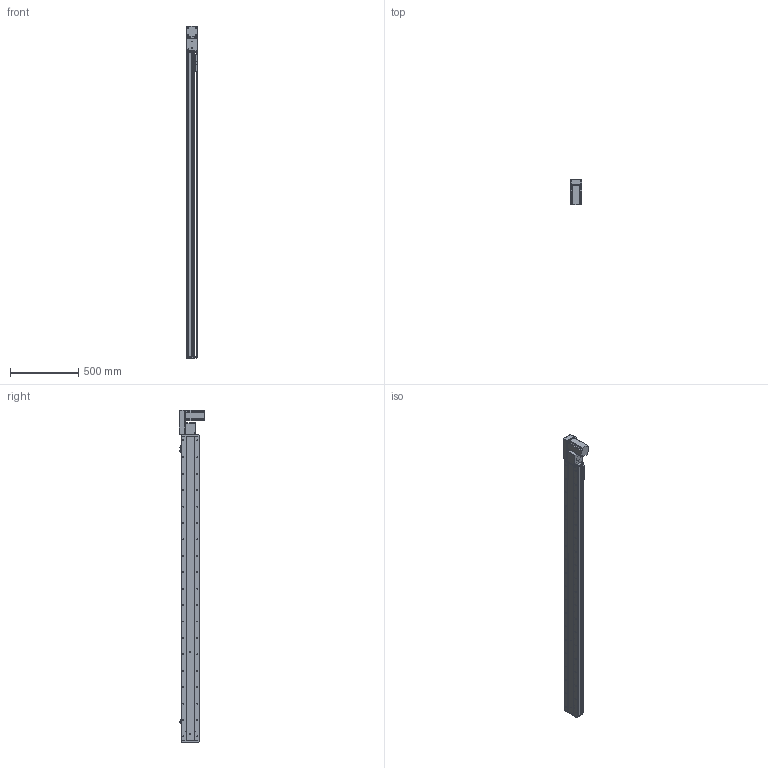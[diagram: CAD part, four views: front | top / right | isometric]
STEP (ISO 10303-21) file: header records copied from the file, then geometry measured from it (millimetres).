
FILE_DESCRIPTION (( 'STEP AP203' ), '1' );
FILE_NAME ('KSD130B-S2000-MRB-CM.STEP', '2019-09-21T07:29:09', ( '微软用户' ), ( '微软中国' ), 'SwSTEP 2.0', 'SolidWorks 2014', '' );
FILE_SCHEMA (( 'CONFIG_CONTROL_DESIGN' ));
Length unit declared in the file: millimetre
Products named in the file (12): U倰嫖萇EEㄜSX672; 覜茼え100遵圉猾敕; 130宽模组马达安装板连板左右折同步带; 130宽底板半封闭同步带-2000行程; 130宽模组保护罩上下左右折-同步带; 130宽端盖同步带半封闭; 台达ECMA－C20807AS伺服电机; 130宽同步带安装座半封闭; KSD130B-S2000-MRB-CM; 130宽马达安装板同步带半封闭; 130宽马达安装板同步带右-改镜向_默认<按加工>; 130宽盖板半封闭同步带-2000行程
Assembly tree (13 placements, depth 2):
  KSD130B-S2000-MRB-CM
    130宽底板半封闭同步带-2000行程
    130宽端盖同步带半封闭
    130宽同步带安装座半封闭
    130宽马达安装板同步带半封闭
    130宽马达安装板同步带右-改镜向_默认<按加工>
    130宽盖板半封闭同步带-2000行程
    U倰嫖萇EEㄜSX672  x3
    覜茼え100遵圉猾敕
    130宽模组马达安装板连板左右折同步带
    130宽模组保护罩上下左右折-同步带
    台达ECMA－C20807AS伺服电机
Bounding box: 81 x 184.8 x 2427 mm (x, y, z)
Volume: 7685981.1 mm3; surface area: 2189694 mm2
Topology: 14 solids, 14 shells, 1787 faces, 5221 edges, 3301 vertices
Faces by surface type: cylinder 886, plane 658, cone 243
Entity records: 56177 total; most frequent: CARTESIAN_POINT 11982, DIRECTION 9227, ORIENTED_EDGE 8942, EDGE_CURVE 4471, AXIS2_PLACEMENT_3D 3406, VERTEX_POINT 2925, VECTOR 2415, LINE 2415
